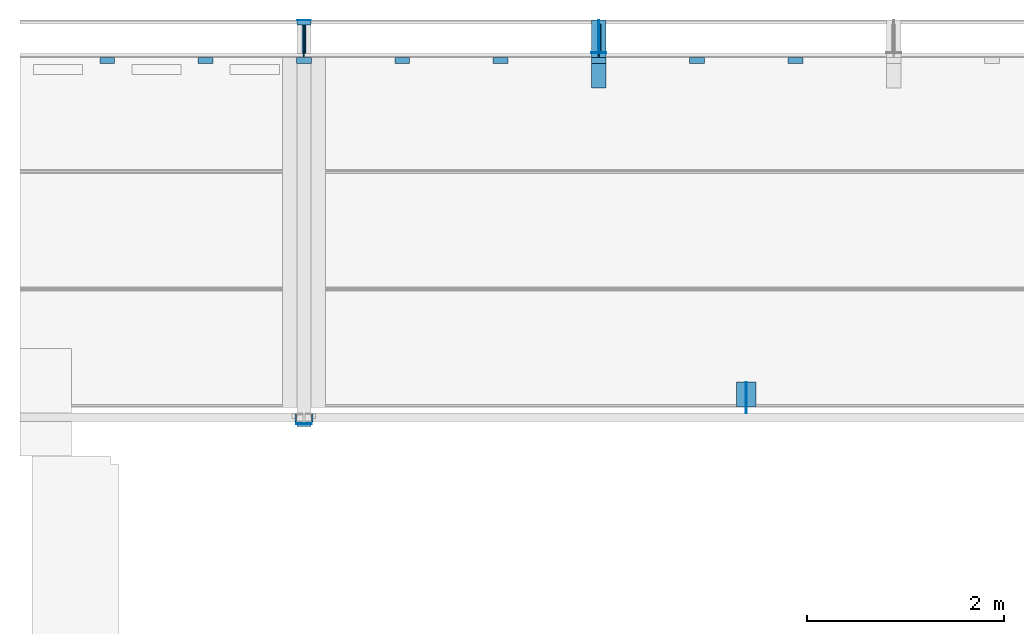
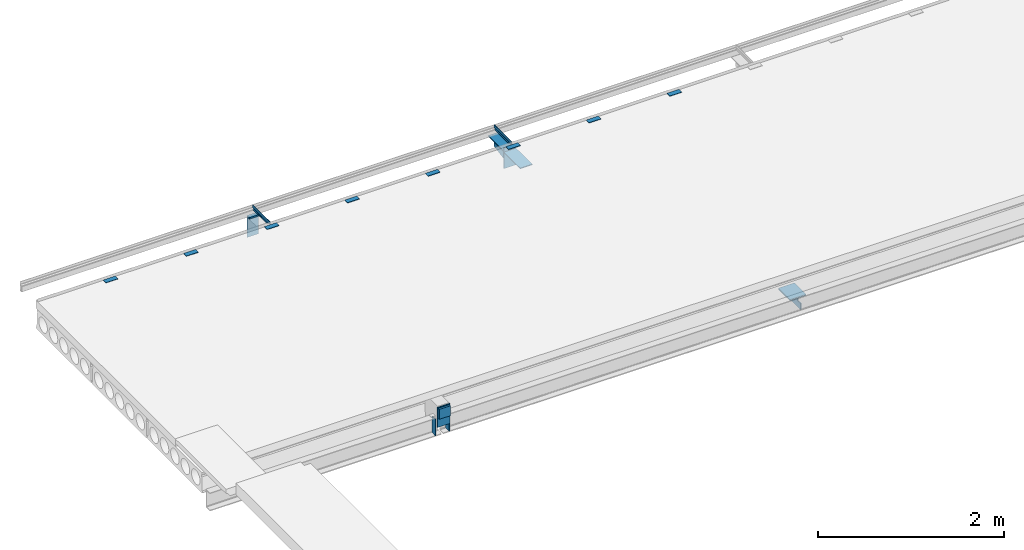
# One storey, part 2 of 8: 22 beams.
"""IFC2X3 building model written with IfcOpenShell, lengths in millimetres."""

from ifc_helpers import new_model, entity, si_unit, converted_unit, derived_unit, direction, frame, origin_with_axes, origin_2d_with_axis, place, context, subcontext, project, spatial, polyline, rectangle, t_section, outline, extrude, boolean, material, type_object, element, save


model = new_model("IFC2X3")

# Units and contexts
model_context = context("Model", 3, precision=0.01, world=frame((0.0, 4.29681676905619e-09, 0.0)), true_north=direction((4.01073788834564e-13, 1.0)))
plan_context = context("Plan", 3, precision=0.01, world=frame((0.0, 4.29681676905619e-09, 0.0)), true_north=direction((4.01073788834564e-13, 1.0)))
body_context = subcontext(model_context, "Body", "Model", "MODEL_VIEW")
ifc_project = project(units=[converted_unit("PLANEANGLEUNIT", "DEGREE", entity("IfcPositiveLengthMeasure", 0.0174532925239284), si_unit("PLANEANGLEUNIT", "RADIAN"), dimensions=[0, 0, 0, 0, 0, 0, 0]), si_unit("AREAUNIT", "SQUARE_METRE"), si_unit("LENGTHUNIT", "METRE", prefix="MILLI"), si_unit("MASSUNIT", "GRAM", prefix="KILO"), si_unit("POWERUNIT", "WATT"), si_unit("PRESSUREUNIT", "PASCAL"), si_unit("FORCEUNIT", "NEWTON", prefix="KILO"), si_unit("ELECTRICVOLTAGEUNIT", "VOLT"), si_unit("ELECTRICCURRENTUNIT", "AMPERE"), si_unit("THERMODYNAMICTEMPERATUREUNIT", "DEGREE_CELSIUS"), si_unit("TIMEUNIT", "SECOND"), si_unit("VOLUMEUNIT", "CUBIC_METRE"), derived_unit("LINEARVELOCITYUNIT", [(si_unit("LENGTHUNIT", "METRE"), 1), (si_unit("TIMEUNIT", "SECOND"), -1)]), derived_unit("VOLUMETRICFLOWRATEUNIT", [(si_unit("VOLUMEUNIT", "CUBIC_METRE"), 1), (si_unit("TIMEUNIT", "SECOND"), -1)]), derived_unit("THERMALTRANSMITTANCEUNIT", [(si_unit("POWERUNIT", "WATT"), 1), (si_unit("THERMODYNAMICTEMPERATUREUNIT", "KELVIN"), -1), (si_unit("AREAUNIT", "SQUARE_METRE"), -1)]), derived_unit("SOUNDPRESSUREUNIT", [(si_unit("PRESSUREUNIT", "PASCAL"), 1)])], contexts=[model_context, plan_context])

# Site, building, storey
site_placement = place(None, frame((0.0, -4.29681676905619e-09, 0.0), z_axis=(0.0, 0.0, 1.0), x_axis=(1.0, 0.0, 0.0)))
site = spatial("IfcSite", under=ifc_project, at=site_placement, Name="Gardermoen", CompositionType="ELEMENT")
building_placement = place(site_placement, frame((0.0, 4.29681676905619e-09, 0.0), z_axis=(0.0, 0.0, 1.0), x_axis=(1.0, 0.0, 0.0)))
building = spatial("IfcBuilding", under=site, at=building_placement, Name="TH", CompositionType="ELEMENT")
storey_placement = place(building_placement, origin_with_axes())
storey = spatial("IfcBuildingStorey", under=building, at=storey_placement, Name="G", CompositionType="ELEMENT", Elevation=0.0)

# Beams
ifc_material_1 = material(Name="STEEL/S355J0")
beam_type_1 = type_object("IfcBeamType", Name="PL10*160", PredefinedType="NOTDEFINED")
beam_1_placement = place(storey_placement, frame((897999.999768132, 480714.000026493, 213291.5), z_axis=(1.0, 0.0, 0.0), x_axis=(0.0, 0.0, 1.0)))
element("IfcBeam", 1, at=beam_1_placement, inside=storey, type_object=beam_type_1, material=ifc_material_1, Name="STÅLBJELKE", ObjectType="PL10*160", context=body_context, shape_type="SweptSolid", body=[
    extrude(rectangle(XDim=10.0, YDim=160.0, at=origin_2d_with_axis()), frame((259.999999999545, -1.16415321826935e-10, 0.0), z_axis=(-1.0, 0.0, 6.61744490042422e-24), x_axis=(0.0, -1.0, 0.0)), (0.0, 0.0, 1.0), 260.0),
])
ifc_material_2 = material(Name="STEEL/S355")
beam_type_2 = type_object("IfcBeamType", Name="PL10*210", PredefinedType="NOTDEFINED")
beam_2_placement = place(storey_placement, frame((901000.0, 484819.999989, 213570.131614), z_axis=(1.0, 0.0, 0.0), x_axis=(0.0, -1.0, 0.0)))
element("IfcBeam", 2, at=beam_2_placement, inside=storey, type_object=beam_type_2, material=ifc_material_2, Name="STÅLBJELKE", ObjectType="PL10*210", context=body_context, shape_type="SweptSolid", body=[
    extrude(outline(polyline([(0.0, 0.0), (330.004364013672, 0.0), (330.004364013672, 210.0), (0.0, 150.0), (0.0, 0.0)])), frame((0.0, 0.0, -5.0), z_axis=(0.0, 0.0, 1.0), x_axis=(1.0, 0.0, 0.0)), (0.0, 0.0, 1.0), 10.0),
])
beam_type_3 = type_object("IfcBeamType", Name="PL10*110", PredefinedType="NOTDEFINED")
beam_3_placement = place(storey_placement, frame((902499.999766, 480820.004375, 213170.0), z_axis=(1.0, 0.0, 0.0), x_axis=(0.0, 1.0, 0.0)))
element("IfcBeam", 3, at=beam_3_placement, inside=storey, type_object=beam_type_3, material=ifc_material_2, Name="STÅLBJELKE", ObjectType="PL10*110", context=body_context, shape_type="SweptSolid", body=[
    extrude(outline(polyline([(0.0, 0.0), (315.0, 0.0), (315.0, 110.0), (65.0, 110.0), (65.0, 80.0), (-3.23117426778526e-27, 80.0), (0.0, 0.0)])), frame((0.0, 0.0, -5.0), z_axis=(0.0, 0.0, 1.0), x_axis=(1.0, 0.0, 0.0)), (0.0, 0.0, 1.0), 10.0),
])
beam_type_4 = type_object("IfcBeamType", Name="20*140", PredefinedType="NOTDEFINED")
beam_4_placement = place(storey_placement, frame((898000.0, 484770.000128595, 213570.131614), z_axis=(0.0, 0.0, 1.0), x_axis=(0.0, 1.0, 0.0)))
element("IfcBeam", 4, at=beam_4_placement, inside=storey, type_object=beam_type_4, material=ifc_material_2, Name="STÅLBJELKE", ObjectType="20*140", context=body_context, shape_type="SweptSolid", body=[
    extrude(rectangle(XDim=140.0, YDim=20.0, at=origin_2d_with_axis()), frame((49.9998604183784, 0.0, 0.0), z_axis=(-1.0, 0.0, 6.61744490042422e-24), x_axis=(0.0, -1.0, 0.0)), (0.0, 0.0, 1.0), 50.0),
])
beam_type_5 = type_object("IfcBeamType", Name="T40", PredefinedType="NOTDEFINED")
for number, where, z_axis, x_axis in (
    (5, (898000.0, 484816.0, 213680.131614), (-3.99999553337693e-08, 0.0, -0.999999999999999), (0.0, -1.0, 0.0)),
    (6, (901000.0, 484816.0, 213680.131614), (-3.99999553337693e-08, 0.0, -0.999999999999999), (0.0, -1.0, 0.0)),
):
    element("IfcBeam", number, at=place(storey_placement, frame(where, z_axis=z_axis, x_axis=x_axis)), inside=storey, type_object=beam_type_5, material=ifc_material_2, Name="STÅLBJELKE", ObjectType="T40", context=body_context, shape_type="CSG", body=[
        boolean("DIFFERENCE", boolean("DIFFERENCE", extrude(t_section(Depth=40.0, FlangeWidth=40.0, WebThickness=5.0, FlangeThickness=5.0, FilletRadius=5.0, FlangeEdgeRadius=2.5, at=origin_2d_with_axis()), frame((372.0, 0.0, 0.0), z_axis=(-1.0, 0.0, 6.61744490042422e-24), x_axis=(0.0, -1.0, 0.0)), (0.0, 0.0, 1.0), 372.0), extrude(outline(polyline([(0.0, 0.0), (35.9997825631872, -1.48429535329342e-09), (35.9998893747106, 5.00003480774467), (-0.000110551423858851, 4.99993991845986), (0.0, 0.0)])), frame((35.9999735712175, 22.9998400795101, 20.0006861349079), z_axis=(-4.44204671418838e-06, -0.999999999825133, -1.81659883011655e-05), x_axis=(-0.999999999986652, 4.4419987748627e-06, 2.63900000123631e-06)), (0.0, 0.0, 1.0), 46.0)), extrude(outline(polyline([(0.0, 0.0), (35.9997825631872, -1.48429535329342e-09), (35.9997711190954, 5.00009489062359), (-0.000229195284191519, 4.99999999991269), (0.0, 0.0)])), frame((372.000191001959, 22.9999999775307, 19.9986246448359), z_axis=(-4.44191436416e-06, -0.999999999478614, 3.19850117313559e-05), x_axis=(-0.999999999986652, 4.4419987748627e-06, 2.63900000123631e-06)), (0.0, 0.0, 1.0), 46.0)),
    ])
beam_type_6 = type_object("IfcBeamType", Name="60*5", PredefinedType="NOTDEFINED")
for number, where, z_axis, x_axis in (
    (7, (895925.002562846, 484410.000002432, 213662.631638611), (0.0, 1.0, 0.0), (1.0, 0.0, 0.0)),
    (8, (896925.002562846, 484410.000002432, 213662.631638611), (0.0, 1.0, 0.0), (1.0, 0.0, 0.0)),
    (9, (897925.002562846, 484410.000002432, 213662.631638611), (0.0, 1.0, 0.0), (1.0, 0.0, 0.0)),
    (10, (898925.002562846, 484410.000002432, 213662.631638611), (0.0, 1.0, 0.0), (1.0, 0.0, 0.0)),
    (11, (899925.002562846, 484410.000002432, 213662.631638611), (0.0, 1.0, 0.0), (1.0, 0.0, 0.0)),
    (12, (901925.002562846, 484410.000002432, 213662.631638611), (0.0, 1.0, 0.0), (1.0, 0.0, 0.0)),
    (13, (902925.002562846, 484410.000002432, 213662.631638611), (0.0, 1.0, 0.0), (1.0, 0.0, 0.0)),
    (14, (900925.002562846, 484410.000002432, 213662.631638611), (0.0, 1.0, 0.0), (1.0, 0.0, 0.0)),
):
    element("IfcBeam", number, at=place(storey_placement, frame(where, z_axis=z_axis, x_axis=x_axis)), inside=storey, type_object=beam_type_6, material=ifc_material_2, Name="STÅLBJELKE", ObjectType="60*5", context=body_context, shape_type="SweptSolid", body=[
        extrude(rectangle(XDim=5.0, YDim=60.0, at=origin_2d_with_axis()), frame((150.0, 0.0, 0.0), z_axis=(-1.0, 0.0, 6.61744490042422e-24), x_axis=(0.0, -1.0, 0.0)), (0.0, 0.0, 1.0), 150.0),
    ])
beam_type_7 = type_object("IfcBeamType", Name="10*150", PredefinedType="NOTDEFINED")
beam_5_placement = place(storey_placement, frame((901000.0, 484129.995625, 213565.131614), z_axis=(0.0, 0.0, 1.0), x_axis=(0.0, 1.0, 0.0)))
element("IfcBeam", 15, at=beam_5_placement, inside=storey, type_object=beam_type_7, material=ifc_material_2, Name="STÅLBJELKE", ObjectType="10*150", context=body_context, shape_type="SweptSolid", body=[
    extrude(rectangle(XDim=150.0, YDim=10.0, at=origin_2d_with_axis()), frame((350.000000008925, 0.0, 1.16415321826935e-10), z_axis=(-1.0, 0.0, 6.61744490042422e-24), x_axis=(0.0, -1.0, 0.0)), (0.0, 0.0, 1.0), 350.0),
])
beam_6_placement = place(storey_placement, frame((901000.0, 484489.995625, 213575.131614), z_axis=(0.0, 0.0, 1.0), x_axis=(0.0, 1.0, 0.0)))
element("IfcBeam", 16, at=beam_6_placement, inside=storey, type_object=beam_type_7, material=ifc_material_2, Name="STÅLBJELKE", ObjectType="10*150", context=body_context, shape_type="SweptSolid", body=[
    extrude(rectangle(XDim=150.0, YDim=10.0, at=origin_2d_with_axis()), frame((330.004364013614, 0.0, 0.0), z_axis=(-1.0, 0.0, 6.61744490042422e-24), x_axis=(0.0, -1.0, 0.0)), (0.0, 0.0, 1.0), 330.0),
])
beam_7_placement = place(storey_placement, frame((901000.0, 484484.995625, 213620.131614), z_axis=(0.0, 1.0, 0.0), x_axis=(-3.99999553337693e-08, 0.0, -0.999999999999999)))
element("IfcBeam", 17, at=beam_7_placement, inside=storey, type_object=beam_type_7, material=ifc_material_2, Name="STÅLBJELKE", ObjectType="10*150", context=body_context, shape_type="SweptSolid", body=[
    extrude(rectangle(XDim=150.0, YDim=10.0, at=origin_2d_with_axis()), frame((270.0, 0.0, 0.0), z_axis=(-1.0, 0.0, 6.61744490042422e-24), x_axis=(0.0, -1.0, 0.0)), (0.0, 0.0, 1.0), 270.0),
])
beam_type_8 = type_object("IfcBeamType", Name="PL15*200", PredefinedType="NOTDEFINED")
beam_8_placement = place(storey_placement, frame((902599.999766, 480885.004375, 213287.5), z_axis=(0.0, 0.0, 1.0), x_axis=(0.0, 1.0, 0.0)))
element("IfcBeam", 18, at=beam_8_placement, inside=storey, type_object=beam_type_8, material=ifc_material_2, Name="STÅLBJELKE", ObjectType="PL15*200", context=body_context, shape_type="SweptSolid", body=[
    extrude(outline(polyline([(0.0, 0.0), (250.000030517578, 1.25437509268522e-08), (249.999993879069, 200.000000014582), (0.0, 200.0), (0.0, 0.0)])), frame((0.0, 0.0, -7.5), z_axis=(0.0, 0.0, 1.0), x_axis=(1.0, 0.0, 0.0)), (0.0, 0.0, 1.0), 15.0),
])
beam_type_9 = type_object("IfcBeamType", Name="PL10*76", PredefinedType="NOTDEFINED")
for number, where, z_axis, x_axis in (
    (19, (898084.999766, 480735.004375, 213169.6), (-1.0, 0.0, 0.0), (0.0, 0.0, 1.0)),
    (20, (897914.999766, 480735.004375, 213169.6), (-1.0, 0.0, 0.0), (0.0, 0.0, 1.0)),
):
    element("IfcBeam", number, at=place(storey_placement, frame(where, z_axis=z_axis, x_axis=x_axis)), inside=storey, type_object=beam_type_9, material=ifc_material_2, Name="STÅLBJELKE", ObjectType="PL10*76", context=body_context, shape_type="SweptSolid", body=[
        extrude(outline(polyline([(0.0, 0.0), (220.800003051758, 0.0), (214.759994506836, 75.5), (6.03999996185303, 75.5), (0.0, 0.0)])), frame((0.0, 0.0, -5.0), z_axis=(0.0, 0.0, 1.0), x_axis=(1.0, 0.0, 0.0)), (0.0, 0.0, 1.0), 10.0),
    ])
beam_type_10 = type_object("IfcBeamType", Name="25*140", PredefinedType="NOTDEFINED")
beam_9_placement = place(storey_placement, frame((897999.998891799, 480696.500034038, 213541.000007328), z_axis=(0.0, 1.0, 0.0), x_axis=(-3.99999553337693e-08, 0.0, -0.999999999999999)))
element("IfcBeam", 21, at=beam_9_placement, inside=storey, type_object=beam_type_10, material=ifc_material_2, Name="STÅLBJELKE", ObjectType="25*140", context=body_context, shape_type="SweptSolid", body=[
    extrude(rectangle(XDim=140.0, YDim=25.0, at=origin_2d_with_axis()), frame((130.0, 0.0, 0.0), z_axis=(-1.0, 0.0, 6.61744490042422e-24), x_axis=(0.0, -1.0, 0.0)), (0.0, 0.0, 1.0), 130.0),
])
beam_type_11 = type_object("IfcBeamType", Name="PL5*140", PredefinedType="NOTDEFINED")
beam_10_placement = place(storey_placement, frame((898000.000640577, 484817.5, 213293.0), z_axis=(-1.0, 0.0, 0.0), x_axis=(0.0, 0.0, 1.0)))
element("IfcBeam", 22, at=beam_10_placement, inside=storey, type_object=beam_type_11, material=ifc_material_1, Name="STÅLBJELKE", ObjectType="PL5*140", context=body_context, shape_type="SweptSolid", body=[
    extrude(rectangle(XDim=5.0, YDim=140.0, at=origin_2d_with_axis()), frame((257.0, 0.0, 0.0), z_axis=(-1.0, 0.0, 6.61744490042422e-24), x_axis=(0.0, -1.0, 0.0)), (0.0, 0.0, 1.0), 257.0),
])

save(model, "model.ifc")
